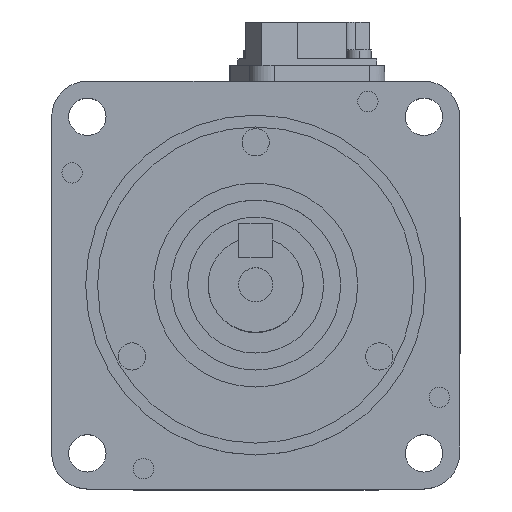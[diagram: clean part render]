
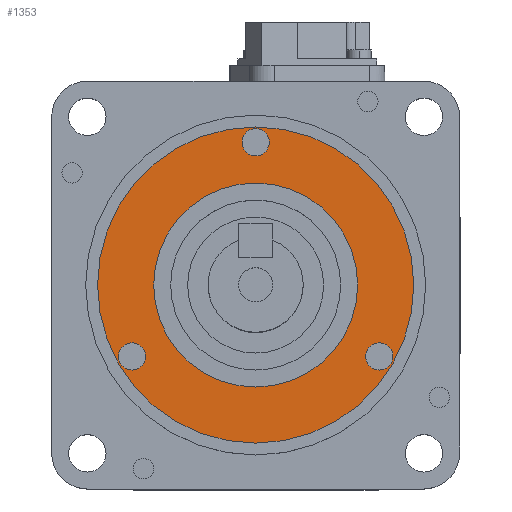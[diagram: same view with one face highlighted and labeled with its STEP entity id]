
A CAD part, top view. The second image highlights one B-rep face of the part: STEP entity #1353.
In plain terms, the highlighted planar face has unit normal (0, 0, 1).
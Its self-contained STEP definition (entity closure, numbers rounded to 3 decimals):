
#1340 = ORIENTED_EDGE ( 'NONE', *, *, #1341, .F. ) ;
#1341 = EDGE_CURVE ( 'NONE', #8369, #8373, #8587, .T. ) ;
#1342 = ORIENTED_EDGE ( 'NONE', *, *, #8374, .F. ) ;
#1343 = EDGE_LOOP ( 'NONE', ( #1344, #1346 ) ) ;
#1344 = ORIENTED_EDGE ( 'NONE', *, *, #1345, .F. ) ;
#1345 = EDGE_CURVE ( 'NONE', #8342, #8336, #8582, .T. ) ;
#1346 = ORIENTED_EDGE ( 'NONE', *, *, #8341, .F. ) ;
#1353 = ADVANCED_FACE ( 'NONE', ( #8557, #8556, #8555, #8554, #8622 ), #8621, .F. ) ;
#1354 = EDGE_LOOP ( 'NONE', ( #1355, #1357 ) ) ;
#1355 = ORIENTED_EDGE ( 'NONE', *, *, #1356, .F. ) ;
#1356 = EDGE_CURVE ( 'NONE', #8348, #8358, #8616, .T. ) ;
#1357 = ORIENTED_EDGE ( 'NONE', *, *, #8353, .F. ) ;
#1358 = EDGE_LOOP ( 'NONE', ( #1359, #1361 ) ) ;
#1359 = ORIENTED_EDGE ( 'NONE', *, *, #1360, .T. ) ;
#1360 = EDGE_CURVE ( 'NONE', #8405, #8412, #8611, .T. ) ;
#1361 = ORIENTED_EDGE ( 'NONE', *, *, #8410, .T. ) ;
#1362 = EDGE_LOOP ( 'NONE', ( #1363, #1365 ) ) ;
#1363 = ORIENTED_EDGE ( 'NONE', *, *, #1364, .F. ) ;
#1364 = EDGE_CURVE ( 'NONE', #8422, #8424, #8606, .T. ) ;
#1365 = ORIENTED_EDGE ( 'NONE', *, *, #8421, .F. ) ;
#1366 = EDGE_LOOP ( 'NONE', ( #1340, #1342 ) ) ;
#8336 = VERTEX_POINT ( 'NONE', #15770 ) ;
#8341 = EDGE_CURVE ( 'NONE', #8336, #8342, #15769, .T. ) ;
#8342 = VERTEX_POINT ( 'NONE', #15764 ) ;
#8348 = VERTEX_POINT ( 'NONE', #15811 ) ;
#8353 = EDGE_CURVE ( 'NONE', #8358, #8348, #15799, .T. ) ;
#8358 = VERTEX_POINT ( 'NONE', #15790 ) ;
#8369 = VERTEX_POINT ( 'NONE', #15834 ) ;
#8373 = VERTEX_POINT ( 'NONE', #15823 ) ;
#8374 = EDGE_CURVE ( 'NONE', #8373, #8369, #15822, .T. ) ;
#8405 = VERTEX_POINT ( 'NONE', #15940 ) ;
#8410 = EDGE_CURVE ( 'NONE', #8412, #8405, #15933, .T. ) ;
#8412 = VERTEX_POINT ( 'NONE', #15928 ) ;
#8421 = EDGE_CURVE ( 'NONE', #8424, #8422, #15911, .T. ) ;
#8422 = VERTEX_POINT ( 'NONE', #15959 ) ;
#8424 = VERTEX_POINT ( 'NONE', #15954 ) ;
#8554 = FACE_BOUND ( 'NONE', #1366, .T. ) ;
#8555 = FACE_OUTER_BOUND ( 'NONE', #1362, .T. ) ;
#8556 = FACE_BOUND ( 'NONE', #1358, .T. ) ;
#8557 = FACE_BOUND ( 'NONE', #1354, .T. ) ;
#8578 = DIRECTION ( 'NONE',  ( -1., 0., 0. ) ) ;
#8579 = DIRECTION ( 'NONE',  ( 0., 0., 1. ) ) ;
#8580 = CARTESIAN_POINT ( 'NONE',  ( -18.187, -10.5, 2.6 ) ) ;
#8581 = AXIS2_PLACEMENT_3D ( 'NONE', #8580, #8579, #8578 ) ;
#8582 = CIRCLE ( 'NONE', #8581, 2. ) ;
#8583 = DIRECTION ( 'NONE',  ( -1., 0., 0. ) ) ;
#8584 = DIRECTION ( 'NONE',  ( 0., 0., 1. ) ) ;
#8585 = CARTESIAN_POINT ( 'NONE',  ( 0., 21., 2.6 ) ) ;
#8586 = AXIS2_PLACEMENT_3D ( 'NONE', #8585, #8584, #8583 ) ;
#8587 = CIRCLE ( 'NONE', #8586, 2. ) ;
#8602 = DIRECTION ( 'NONE',  ( -1., 0., 0. ) ) ;
#8603 = DIRECTION ( 'NONE',  ( 0., 0., -1. ) ) ;
#8604 = CARTESIAN_POINT ( 'NONE',  ( 0., 0., 2.6 ) ) ;
#8605 = AXIS2_PLACEMENT_3D ( 'NONE', #8604, #8603, #8602 ) ;
#8606 = CIRCLE ( 'NONE', #8605, 23.25 ) ;
#8607 = DIRECTION ( 'NONE',  ( -1., 0., 0. ) ) ;
#8608 = DIRECTION ( 'NONE',  ( 0., 0., -1. ) ) ;
#8609 = CARTESIAN_POINT ( 'NONE',  ( 0., 0., 2.6 ) ) ;
#8610 = AXIS2_PLACEMENT_3D ( 'NONE', #8609, #8608, #8607 ) ;
#8611 = CIRCLE ( 'NONE', #8610, 15. ) ;
#8612 = DIRECTION ( 'NONE',  ( -1., 0., 0. ) ) ;
#8613 = DIRECTION ( 'NONE',  ( 0., 0., 1. ) ) ;
#8614 = CARTESIAN_POINT ( 'NONE',  ( 18.187, -10.5, 2.6 ) ) ;
#8615 = AXIS2_PLACEMENT_3D ( 'NONE', #8614, #8613, #8612 ) ;
#8616 = CIRCLE ( 'NONE', #8615, 2. ) ;
#8617 = DIRECTION ( 'NONE',  ( -1., 0., 0. ) ) ;
#8618 = DIRECTION ( 'NONE',  ( 0., 0., -1. ) ) ;
#8619 = CARTESIAN_POINT ( 'NONE',  ( 0., 23.25, 2.6 ) ) ;
#8620 = AXIS2_PLACEMENT_3D ( 'NONE', #8619, #8618, #8617 ) ;
#8621 = PLANE ( 'NONE',  #8620 ) ;
#8622 = FACE_BOUND ( 'NONE', #1343, .T. ) ;
#15764 = CARTESIAN_POINT ( 'NONE',  ( -20.187, -10.5, 2.6 ) ) ;
#15765 = DIRECTION ( 'NONE',  ( -1., 0., 0. ) ) ;
#15766 = DIRECTION ( 'NONE',  ( 0., 0., 1. ) ) ;
#15767 = CARTESIAN_POINT ( 'NONE',  ( -18.187, -10.5, 2.6 ) ) ;
#15768 = AXIS2_PLACEMENT_3D ( 'NONE', #15767, #15766, #15765 ) ;
#15769 = CIRCLE ( 'NONE', #15768, 2. ) ;
#15770 = CARTESIAN_POINT ( 'NONE',  ( -16.187, -10.5, 2.6 ) ) ;
#15790 = CARTESIAN_POINT ( 'NONE',  ( 20.187, -10.5, 2.6 ) ) ;
#15796 = DIRECTION ( 'NONE',  ( -1., 0., 0. ) ) ;
#15797 = DIRECTION ( 'NONE',  ( 0., 0., 1. ) ) ;
#15798 = AXIS2_PLACEMENT_3D ( 'NONE', #15804, #15797, #15796 ) ;
#15799 = CIRCLE ( 'NONE', #15798, 2. ) ;
#15804 = CARTESIAN_POINT ( 'NONE',  ( 18.187, -10.5, 2.6 ) ) ;
#15811 = CARTESIAN_POINT ( 'NONE',  ( 16.187, -10.5, 2.6 ) ) ;
#15818 = DIRECTION ( 'NONE',  ( -1., 0., 0. ) ) ;
#15819 = DIRECTION ( 'NONE',  ( 0., 0., 1. ) ) ;
#15820 = CARTESIAN_POINT ( 'NONE',  ( 0., 21., 2.6 ) ) ;
#15821 = AXIS2_PLACEMENT_3D ( 'NONE', #15820, #15819, #15818 ) ;
#15822 = CIRCLE ( 'NONE', #15821, 2. ) ;
#15823 = CARTESIAN_POINT ( 'NONE',  ( 2., 21., 2.6 ) ) ;
#15834 = CARTESIAN_POINT ( 'NONE',  ( -2., 21., 2.6 ) ) ;
#15911 = CIRCLE ( 'NONE', #15963, 23.25 ) ;
#15928 = CARTESIAN_POINT ( 'NONE',  ( 15., 0., 2.6 ) ) ;
#15929 = DIRECTION ( 'NONE',  ( -1., 0., 0. ) ) ;
#15930 = DIRECTION ( 'NONE',  ( 0., 0., -1. ) ) ;
#15931 = CARTESIAN_POINT ( 'NONE',  ( 0., 0., 2.6 ) ) ;
#15932 = AXIS2_PLACEMENT_3D ( 'NONE', #15931, #15930, #15929 ) ;
#15933 = CIRCLE ( 'NONE', #15932, 15. ) ;
#15940 = CARTESIAN_POINT ( 'NONE',  ( -15., 0., 2.6 ) ) ;
#15954 = CARTESIAN_POINT ( 'NONE',  ( 23.25, 0., 2.6 ) ) ;
#15959 = CARTESIAN_POINT ( 'NONE',  ( -23.25, 0., 2.6 ) ) ;
#15960 = DIRECTION ( 'NONE',  ( -1., 0., 0. ) ) ;
#15961 = DIRECTION ( 'NONE',  ( 0., 0., -1. ) ) ;
#15962 = CARTESIAN_POINT ( 'NONE',  ( 0., 0., 2.6 ) ) ;
#15963 = AXIS2_PLACEMENT_3D ( 'NONE', #15962, #15961, #15960 ) ;
